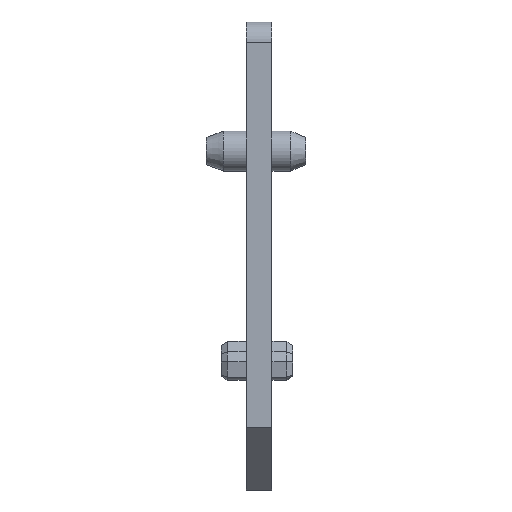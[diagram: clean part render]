
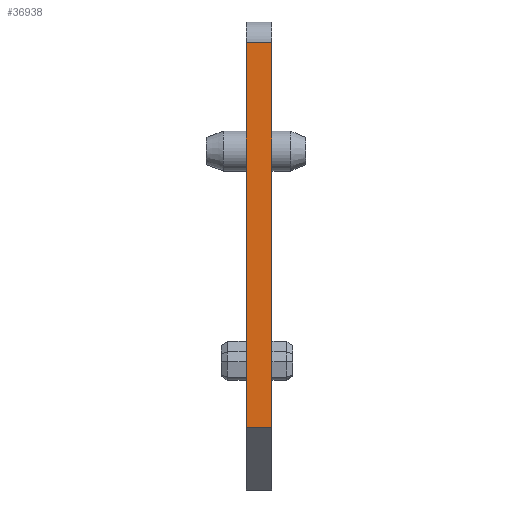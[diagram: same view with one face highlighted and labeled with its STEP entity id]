
A CAD part, left-side view. The second image highlights one B-rep face of the part: STEP entity #36938.
In plain terms, the highlighted planar face has unit normal (-1, 0, 0).
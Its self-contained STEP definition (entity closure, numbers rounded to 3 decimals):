
#200 = EDGE_CURVE ( 'NONE', #39746, #24158, #35383, .T. ) ;
#2588 = CARTESIAN_POINT ( 'NONE',  ( -16.1, 1.219, -8.15 ) ) ;
#4148 = CARTESIAN_POINT ( 'NONE',  ( -16.1, 1.219, 11.15 ) ) ;
#4400 = EDGE_LOOP ( 'NONE', ( #33510, #42927, #14874, #11565 ) ) ;
#4962 = EDGE_CURVE ( 'NONE', #39746, #25659, #30643, .T. ) ;
#5089 = VECTOR ( 'NONE', #38047, 1000. ) ;
#5126 = PLANE ( 'NONE',  #33809 ) ;
#5587 = VECTOR ( 'NONE', #8388, 1000. ) ;
#7468 = DIRECTION ( 'NONE',  ( 0., 0., 1. ) ) ;
#8316 = CARTESIAN_POINT ( 'NONE',  ( -16.1, 1.219, 11.15 ) ) ;
#8388 = DIRECTION ( 'NONE',  ( 0., 1., 0. ) ) ;
#8445 = DIRECTION ( 'NONE',  ( 1., 0., 0. ) ) ;
#9806 = FACE_OUTER_BOUND ( 'NONE', #4400, .T. ) ;
#11565 = ORIENTED_EDGE ( 'NONE', *, *, #4962, .T. ) ;
#13175 = VECTOR ( 'NONE', #31517, 1000. ) ;
#14458 = LINE ( 'NONE', #28359, #5587 ) ;
#14874 = ORIENTED_EDGE ( 'NONE', *, *, #200, .F. ) ;
#15530 = VECTOR ( 'NONE', #7468, 1000. ) ;
#16602 = CARTESIAN_POINT ( 'NONE',  ( -16.1, 0., 10.15 ) ) ;
#24158 = VERTEX_POINT ( 'NONE', #26837 ) ;
#24738 = CARTESIAN_POINT ( 'NONE',  ( -16.1, 1.219, -8.15 ) ) ;
#25659 = VERTEX_POINT ( 'NONE', #28272 ) ;
#26837 = CARTESIAN_POINT ( 'NONE',  ( -16.1, 1.219, 10.15 ) ) ;
#28163 = CARTESIAN_POINT ( 'NONE',  ( -16.1, 0., 11.15 ) ) ;
#28272 = CARTESIAN_POINT ( 'NONE',  ( -16.1, 0., -8.15 ) ) ;
#28359 = CARTESIAN_POINT ( 'NONE',  ( -16.1, 1.219, 10.15 ) ) ;
#28859 = EDGE_CURVE ( 'NONE', #25659, #41044, #30912, .T. ) ;
#30643 = LINE ( 'NONE', #24738, #5089 ) ;
#30912 = LINE ( 'NONE', #28163, #13175 ) ;
#31517 = DIRECTION ( 'NONE',  ( 0., 0., 1. ) ) ;
#31797 = DIRECTION ( 'NONE',  ( 0., 0., -1. ) ) ;
#32657 = EDGE_CURVE ( 'NONE', #41044, #24158, #14458, .T. ) ;
#33510 = ORIENTED_EDGE ( 'NONE', *, *, #28859, .T. ) ;
#33809 = AXIS2_PLACEMENT_3D ( 'NONE', #8316, #8445, #31797 ) ;
#35383 = LINE ( 'NONE', #4148, #15530 ) ;
#36938 = ADVANCED_FACE ( 'NONE', ( #9806 ), #5126, .F. ) ;
#38047 = DIRECTION ( 'NONE',  ( 0., -1., 0. ) ) ;
#39746 = VERTEX_POINT ( 'NONE', #2588 ) ;
#41044 = VERTEX_POINT ( 'NONE', #16602 ) ;
#42927 = ORIENTED_EDGE ( 'NONE', *, *, #32657, .T. ) ;
